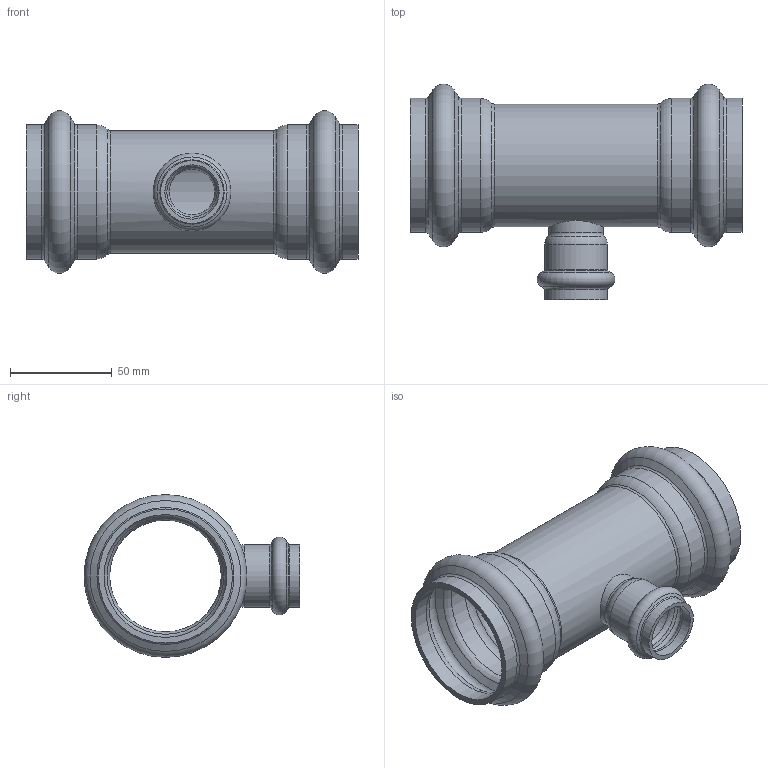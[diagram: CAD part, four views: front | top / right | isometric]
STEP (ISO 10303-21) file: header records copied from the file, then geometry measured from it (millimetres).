
FILE_DESCRIPTION(/* description */ ('VIC TEE RED. BRANCH STYLE P593 (P X P X P)','CAx-IF Rec.Pracs.---Representation and Presentation of Product Manufacturing Information (PMI)---4.0---2014-10-13'),/* implementation_level */ '2;1');
FILE_NAME(/* name */ 'C:\Users\Vjadhav\AppData\Roaming\Autodesk\ApplicationPlugins\Back Up\Victaulic_SS-Vic-Press-TP 304_Tee Reducing_Style P593 (VP)\Victaulic_SS-Vic-Press-TP 304_Tee Reducing_Style P593 (VP)_02.0x0.75 (50x20).stp',/* time_stamp */ '2020-08-12T18:32:36+05:00',/* author */ ('cgray'),/* organization */ ('Victaulic'),/* preprocessor_version */ 'ST-DEVELOPER v17.2',/* originating_system */ 'Autodesk Inventor 2019',/* authorisation */ '');
FILE_SCHEMA (('AP242_MANAGED_MODEL_BASED_3D_ENGINEERING_MIM_LF { 1 0 10303 442 1 1 4 }'));
Length unit declared in the file: inch
Products named in the file (1): P593-02.0x0.75
Bounding box: 163.07 x 106.01 x 79.93 mm (x, y, z)
Volume: 102868.9 mm3; surface area: 77425.5 mm2
Topology: 1 solids, 1 shells, 61 faces, 220 edges, 160 vertices
Faces by surface type: torus 30, cylinder 16, cone 12, plane 3
Full cylindrical faces by diameter (mm): 22.454 x1, 26.67 x3, 30.886 x2, 54.788 x1, 60.325 x5, 65.862 x4
Entity records: 2809 total; most frequent: CARTESIAN_POINT 547, DIRECTION 544, ORIENTED_EDGE 440, AXIS2_PLACEMENT_3D 257, EDGE_CURVE 220, CIRCLE 182, VERTEX_POINT 160, EDGE_LOOP 64
